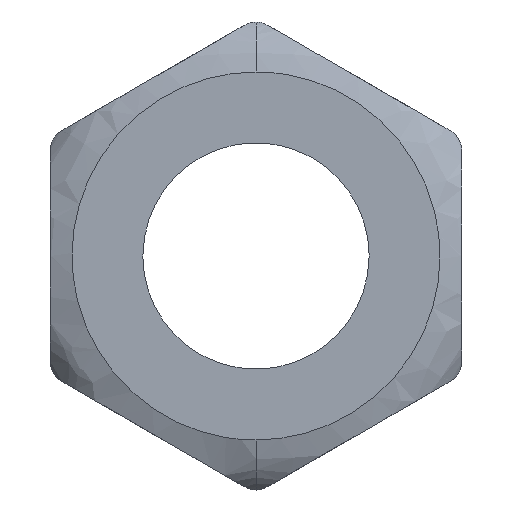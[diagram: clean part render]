
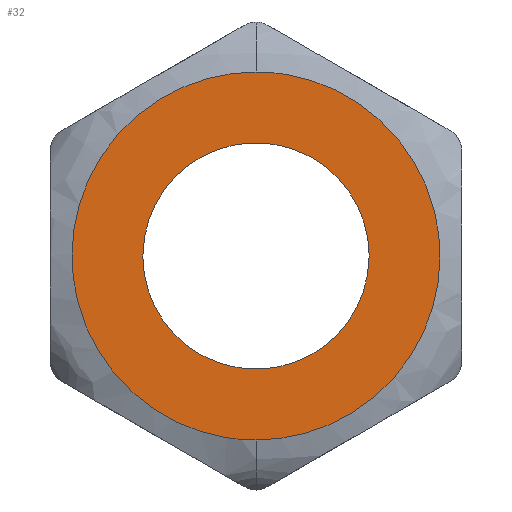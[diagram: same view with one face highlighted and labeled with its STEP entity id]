
A CAD part, front view. The second image highlights one B-rep face of the part: STEP entity #32.
In plain terms, the highlighted planar face has unit normal (0, -1, 0).
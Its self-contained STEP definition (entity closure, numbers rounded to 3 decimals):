
#16=FACE_BOUND('',#74,.T.);
#32=ADVANCED_FACE('',(#52,#16),#350,.T.);
#52=FACE_OUTER_BOUND('',#73,.T.);
#73=EDGE_LOOP('',(#149,#150));
#74=EDGE_LOOP('',(#151,#152));
#149=ORIENTED_EDGE('',*,*,#193,.T.);
#150=ORIENTED_EDGE('',*,*,#236,.T.);
#151=ORIENTED_EDGE('',*,*,#189,.T.);
#152=ORIENTED_EDGE('',*,*,#234,.T.);
#189=EDGE_CURVE('',#296,#326,#287,.T.);
#193=EDGE_CURVE('',#302,#327,#289,.T.);
#234=EDGE_CURVE('',#326,#296,#292,.T.);
#236=EDGE_CURVE('',#327,#302,#293,.T.);
#287=(
BOUNDED_CURVE()
B_SPLINE_CURVE(2,(#580,#581,#582,#583,#584),.UNSPECIFIED.,.F.,.F.)
B_SPLINE_CURVE_WITH_KNOTS((3,2,3),(18.9,21.256,23.612),
 .UNSPECIFIED.)
CURVE()
GEOMETRIC_REPRESENTATION_ITEM()
RATIONAL_B_SPLINE_CURVE((1.,0.707,1.,0.707,1.))
REPRESENTATION_ITEM('')
);
#289=(
BOUNDED_CURVE()
B_SPLINE_CURVE(2,(#614,#615,#616,#617,#618),.UNSPECIFIED.,.F.,.F.)
B_SPLINE_CURVE_WITH_KNOTS((3,2,3),(0.,8.219,16.437),
 .UNSPECIFIED.)
CURVE()
GEOMETRIC_REPRESENTATION_ITEM()
RATIONAL_B_SPLINE_CURVE((1.,0.707,1.,0.707,1.))
REPRESENTATION_ITEM('')
);
#292=(
BOUNDED_CURVE()
B_SPLINE_CURVE(2,(#854,#855,#856,#857,#858),.UNSPECIFIED.,.F.,.F.)
B_SPLINE_CURVE_WITH_KNOTS((3,2,3),(23.612,25.969,28.325),
 .UNSPECIFIED.)
CURVE()
GEOMETRIC_REPRESENTATION_ITEM()
RATIONAL_B_SPLINE_CURVE((1.,0.707,1.,0.707,1.))
REPRESENTATION_ITEM('')
);
#293=(
BOUNDED_CURVE()
B_SPLINE_CURVE(2,(#863,#864,#865,#866,#867),.UNSPECIFIED.,.F.,.F.)
B_SPLINE_CURVE_WITH_KNOTS((3,2,3),(16.437,24.656,32.875),
 .UNSPECIFIED.)
CURVE()
GEOMETRIC_REPRESENTATION_ITEM()
RATIONAL_B_SPLINE_CURVE((1.,0.707,1.,0.707,1.))
REPRESENTATION_ITEM('')
);
#296=VERTEX_POINT('',#538);
#302=VERTEX_POINT('',#544);
#326=VERTEX_POINT('',#568);
#327=VERTEX_POINT('',#569);
#350=PLANE('',#378);
#378=AXIS2_PLACEMENT_3D('',#466,#389,$);
#389=DIRECTION('',(0.,-1.,0.));
#466=CARTESIAN_POINT('',(333.52,421.261,403.207));
#538=CARTESIAN_POINT('',(338.43,421.261,407.144));
#544=CARTESIAN_POINT('',(336.93,421.261,409.585));
#568=CARTESIAN_POINT('',(335.43,421.261,407.144));
#569=CARTESIAN_POINT('',(336.93,421.261,404.704));
#580=CARTESIAN_POINT('',(338.43,421.261,407.144));
#581=CARTESIAN_POINT('',(338.43,421.261,405.644));
#582=CARTESIAN_POINT('',(336.93,421.261,405.644));
#583=CARTESIAN_POINT('',(335.43,421.261,405.644));
#584=CARTESIAN_POINT('',(335.43,421.261,407.144));
#614=CARTESIAN_POINT('',(336.93,421.261,409.585));
#615=CARTESIAN_POINT('',(334.49,421.261,409.585));
#616=CARTESIAN_POINT('',(334.49,421.261,407.144));
#617=CARTESIAN_POINT('',(334.49,421.261,404.704));
#618=CARTESIAN_POINT('',(336.93,421.261,404.704));
#854=CARTESIAN_POINT('',(335.43,421.261,407.144));
#855=CARTESIAN_POINT('',(335.43,421.261,408.644));
#856=CARTESIAN_POINT('',(336.93,421.261,408.644));
#857=CARTESIAN_POINT('',(338.43,421.261,408.644));
#858=CARTESIAN_POINT('',(338.43,421.261,407.144));
#863=CARTESIAN_POINT('',(336.93,421.261,404.704));
#864=CARTESIAN_POINT('',(339.37,421.261,404.704));
#865=CARTESIAN_POINT('',(339.37,421.261,407.144));
#866=CARTESIAN_POINT('',(339.37,421.261,409.585));
#867=CARTESIAN_POINT('',(336.93,421.261,409.585));
